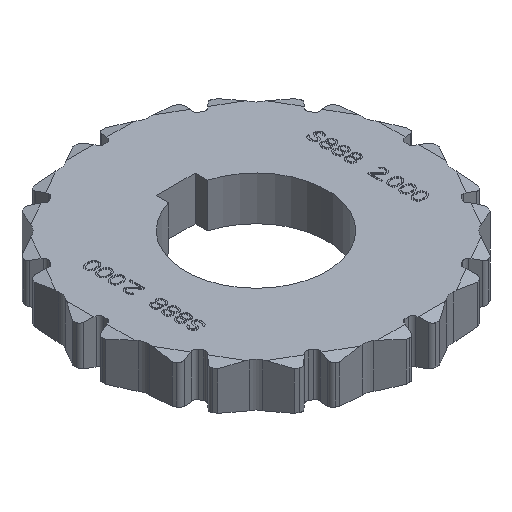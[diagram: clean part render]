
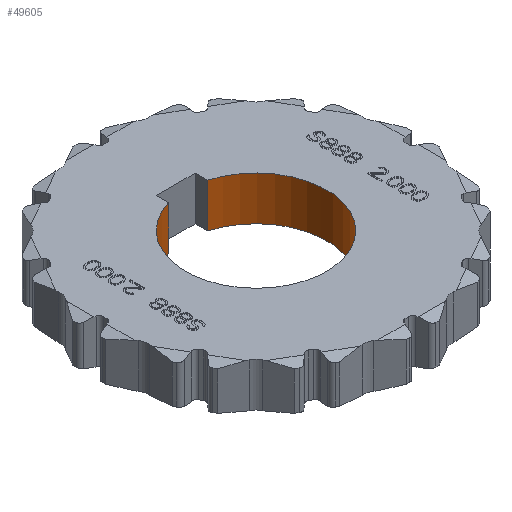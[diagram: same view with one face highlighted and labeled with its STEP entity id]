
A CAD part, isometric view. The second image highlights one B-rep face of the part: STEP entity #49605.
In plain terms, the highlighted cylindrical face has radius 40.005 mm (diameter 80.01 mm), a partial arc.
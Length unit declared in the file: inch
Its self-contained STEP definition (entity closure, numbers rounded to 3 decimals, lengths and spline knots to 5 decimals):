
#15813=CARTESIAN_POINT('',(0.,0.,-0.49));
#15814=DIRECTION('',(0.,0.,1.));
#15815=DIRECTION('',(-0.275,0.961,0.));
#15816=AXIS2_PLACEMENT_3D('',#15813,#15814,#15815);
#15818=DIRECTION('',(0.,0.,1.));
#15819=VECTOR('',#15818,0.98);
#15820=CARTESIAN_POINT('',(0.433,1.51431,-0.49));
#15821=LINE('',#15820,#15819);
#15822=CARTESIAN_POINT('',(0.,0.,0.49));
#15823=DIRECTION('',(0.,0.,-1.));
#15824=DIRECTION('',(0.275,0.961,0.));
#15825=AXIS2_PLACEMENT_3D('',#15822,#15823,#15824);
#15827=DIRECTION('',(0.,0.,1.));
#15828=VECTOR('',#15827,0.98);
#15829=CARTESIAN_POINT('',(-0.433,1.51431,-0.49));
#15830=LINE('',#15829,#15828);
#29916=CARTESIAN_POINT('',(-0.433,1.51431,-0.49));
#29918=VERTEX_POINT('',#29916);
#29919=CARTESIAN_POINT('',(0.433,1.51431,-0.49));
#29921=VERTEX_POINT('',#29919);
#29924=CARTESIAN_POINT('',(-0.433,1.51431,0.49));
#29926=VERTEX_POINT('',#29924);
#29927=CARTESIAN_POINT('',(0.433,1.51431,0.49));
#29929=VERTEX_POINT('',#29927);
#49593=CARTESIAN_POINT('',(0.,0.,0.588));
#49594=DIRECTION('',(0.,0.,1.));
#49595=DIRECTION('',(1.,0.,0.));
#49596=AXIS2_PLACEMENT_3D('',#49593,#49594,#49595);
#49597=CYLINDRICAL_SURFACE('',#49596,1.575);
#49598=ORIENTED_EDGE('',*,*,#31284,.T.);
#49600=ORIENTED_EDGE('',*,*,#49599,.T.);
#49601=ORIENTED_EDGE('',*,*,#33396,.T.);
#49602=ORIENTED_EDGE('',*,*,#49585,.F.);
#49603=EDGE_LOOP('',(#49598,#49600,#49601,#49602));
#49604=FACE_OUTER_BOUND('',#49603,.F.);
#49605=ADVANCED_FACE('',(#49604),#49597,.F.);
#15817=CIRCLE('',#15816,1.575);
#15826=CIRCLE('',#15825,1.575);
#31284=EDGE_CURVE('',#29918,#29921,#15817,.T.);
#33396=EDGE_CURVE('',#29929,#29926,#15826,.T.);
#49585=EDGE_CURVE('',#29918,#29926,#15830,.T.);
#49599=EDGE_CURVE('',#29921,#29929,#15821,.T.);
